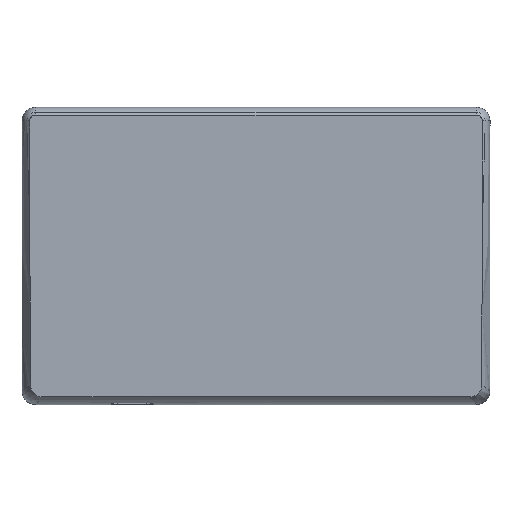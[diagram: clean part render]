
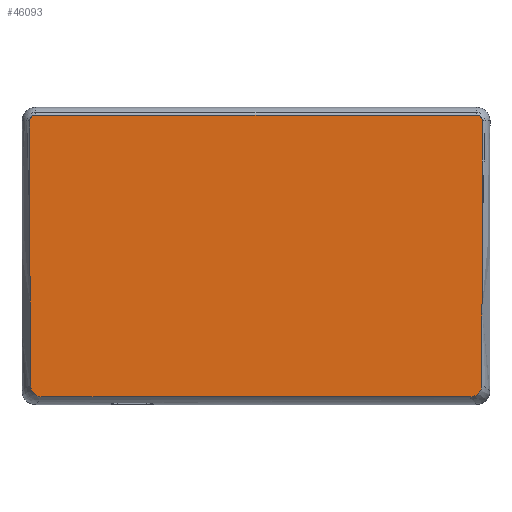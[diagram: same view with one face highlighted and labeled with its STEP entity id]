
A CAD part, front view. The second image highlights one B-rep face of the part: STEP entity #46093.
In plain terms, the highlighted planar face has unit normal (0, -1, 0).
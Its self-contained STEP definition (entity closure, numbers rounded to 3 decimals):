
#1370 = VERTEX_POINT ( 'NONE', #56546 ) ;
#3003 = CARTESIAN_POINT ( 'NONE',  ( 51.646, -1.5, -33.05 ) ) ;
#3081 = CARTESIAN_POINT ( 'NONE',  ( 51.646, -1.5, -31.65 ) ) ;
#3107 = CARTESIAN_POINT ( 'NONE',  ( -52.233, -1.5, -32.09 ) ) ;
#3658 = ORIENTED_EDGE ( 'NONE', *, *, #30579, .T. ) ;
#3877 = CARTESIAN_POINT ( 'NONE',  ( 51.873, -1.5, -32.484 ) ) ;
#3977 = CARTESIAN_POINT ( 'NONE',  ( 53.046, -1.5, 0. ) ) ;
#4042 = CARTESIAN_POINT ( 'NONE',  ( -50.666, -1.5, -32.983 ) ) ;
#4417 = B_SPLINE_CURVE_WITH_KNOTS ( 'NONE', 3,
 ( #6359, #29850, #30150, #15196, #52619, #52909 ),
 .UNSPECIFIED., .F., .F.,
 ( 4, 2, 4 ),
 ( 0., 0.019, 0.039 ),
 .UNSPECIFIED. ) ;
#4468 = VERTEX_POINT ( 'NONE', #50770 ) ;
#6359 = CARTESIAN_POINT ( 'NONE',  ( -53.054, -1.5, 8.36 ) ) ;
#7626 = CARTESIAN_POINT ( 'NONE',  ( -52.54, -1.5, -31.636 ) ) ;
#7670 = ORIENTED_EDGE ( 'NONE', *, *, #47982, .T. ) ;
#7972 = ORIENTED_EDGE ( 'NONE', *, *, #60193, .T. ) ;
#10188 = CARTESIAN_POINT ( 'NONE',  ( 53.046, -1.5, 6.084 ) ) ;
#10369 = CIRCLE ( 'NONE', #44613, 1.4 ) ;
#11305 = VERTEX_POINT ( 'NONE', #47342 ) ;
#11996 = CARTESIAN_POINT ( 'NONE',  ( -53.054, -1.5, 8.36 ) ) ;
#12367 = CARTESIAN_POINT ( 'NONE',  ( 49.973, -1.5, -33.05 ) ) ;
#12678 = CARTESIAN_POINT ( 'NONE',  ( 52.151, -1.5, -32.246 ) ) ;
#12863 = DIRECTION ( 'NONE',  ( 0., 0., -1. ) ) ;
#12984 = CARTESIAN_POINT ( 'NONE',  ( 50.341, -1.5, -33.05 ) ) ;
#13396 = VERTEX_POINT ( 'NONE', #17583 ) ;
#13561 = CARTESIAN_POINT ( 'NONE',  ( 51.399, -1.5, -32.763 ) ) ;
#13654 = CARTESIAN_POINT ( 'NONE',  ( 52.89, -1.5, -30.424 ) ) ;
#15196 = CARTESIAN_POINT ( 'NONE',  ( -52.888, -1.5, -17.48 ) ) ;
#15363 = ORIENTED_EDGE ( 'NONE', *, *, #37979, .T. ) ;
#15702 = LINE ( 'NONE', #20905, #38004 ) ;
#16343 = DIRECTION ( 'NONE',  ( 0., 0., -1. ) ) ;
#16550 = ORIENTED_EDGE ( 'NONE', *, *, #20430, .T. ) ;
#16782 = CARTESIAN_POINT ( 'NONE',  ( -52.814, -1.5, -30.766 ) ) ;
#17092 = CARTESIAN_POINT ( 'NONE',  ( -51.682, -1.5, -32.573 ) ) ;
#17283 = ORIENTED_EDGE ( 'NONE', *, *, #23930, .T. ) ;
#17383 = LINE ( 'NONE', #55144, #44948 ) ;
#17532 = CARTESIAN_POINT ( 'NONE',  ( 52.815, -1.5, -31.161 ) ) ;
#17583 = CARTESIAN_POINT ( 'NONE',  ( 51.646, -1.5, 33.05 ) ) ;
#17713 = DIRECTION ( 'NONE',  ( 0., -1., 0. ) ) ;
#17990 = CARTESIAN_POINT ( 'NONE',  ( 53.046, -1.5, -31.65 ) ) ;
#18622 = CARTESIAN_POINT ( 'NONE',  ( -51.362, -1.5, -32.753 ) ) ;
#20176 = B_SPLINE_CURVE_WITH_KNOTS ( 'NONE', 3,
 ( #21082, #40132, #16782, #53931, #30882, #7626, #26275, #3107, #40455, #59138, #17092, #18622, #23854, #22632, #4042, #41393, #56389, #60389 ),
 .UNSPECIFIED., .F., .F.,
 ( 4, 2, 2, 2, 2, 2, 2, 2, 4 ),
 ( 0., 0.001, 0.001, 0.002, 0.002, 0.003, 0.003, 0.004, 0.004 ),
 .UNSPECIFIED. ) ;
#20430 = EDGE_CURVE ( 'NONE', #51215, #13396, #58781, .T. ) ;
#20905 = CARTESIAN_POINT ( 'NONE',  ( -53.054, -1.5, -31.65 ) ) ;
#21082 = CARTESIAN_POINT ( 'NONE',  ( -52.832, -1.5, -30.399 ) ) ;
#21585 = AXIS2_PLACEMENT_3D ( 'NONE', #59142, #17713, #12863 ) ;
#21685 = DIRECTION ( 'NONE',  ( -1., 0., 0. ) ) ;
#21865 = CARTESIAN_POINT ( 'NONE',  ( -52.832, -1.5, -30.399 ) ) ;
#22396 = VERTEX_POINT ( 'NONE', #11996 ) ;
#22632 = CARTESIAN_POINT ( 'NONE',  ( -50.847, -1.5, -32.941 ) ) ;
#22745 = VECTOR ( 'NONE', #50139, 1000. ) ;
#23477 = CARTESIAN_POINT ( 'NONE',  ( 53.046, -1.5, 6.084 ) ) ;
#23854 = CARTESIAN_POINT ( 'NONE',  ( -51.195, -1.5, -32.826 ) ) ;
#23930 = EDGE_CURVE ( 'NONE', #25761, #1370, #20176, .T. ) ;
#24226 = CARTESIAN_POINT ( 'NONE',  ( 52.89, -1.5, -30.424 ) ) ;
#24851 = ORIENTED_EDGE ( 'NONE', *, *, #60609, .T. ) ;
#25538 = DIRECTION ( 'NONE',  ( 0., -1., 0. ) ) ;
#25669 = FACE_OUTER_BOUND ( 'NONE', #33913, .T. ) ;
#25761 = VERTEX_POINT ( 'NONE', #21865 ) ;
#26275 = CARTESIAN_POINT ( 'NONE',  ( -52.45, -1.5, -31.794 ) ) ;
#26728 = CARTESIAN_POINT ( 'NONE',  ( 51.23, -1.5, -32.834 ) ) ;
#26871 = VERTEX_POINT ( 'NONE', #24226 ) ;
#29850 = CARTESIAN_POINT ( 'NONE',  ( -53.054, -1.5, 1.9 ) ) ;
#30150 = CARTESIAN_POINT ( 'NONE',  ( -52.996, -1.5, -4.56 ) ) ;
#30480 = LINE ( 'NONE', #3003, #22745 ) ;
#30579 = EDGE_CURVE ( 'NONE', #1370, #33540, #30480, .T. ) ;
#30882 = CARTESIAN_POINT ( 'NONE',  ( -52.686, -1.5, -31.301 ) ) ;
#31985 = ORIENTED_EDGE ( 'NONE', *, *, #32816, .T. ) ;
#32215 = CARTESIAN_POINT ( 'NONE',  ( 52.591, -1.5, -31.661 ) ) ;
#32690 = DIRECTION ( 'NONE',  ( 0., 0., 1. ) ) ;
#32816 = EDGE_CURVE ( 'NONE', #26871, #39844, #35067, .T. ) ;
#32957 = CARTESIAN_POINT ( 'NONE',  ( 52.929, -1.5, -18.254 ) ) ;
#33284 = CARTESIAN_POINT ( 'NONE',  ( 53.046, -1.5, 31.65 ) ) ;
#33540 = VERTEX_POINT ( 'NONE', #43444 ) ;
#33913 = EDGE_LOOP ( 'NONE', ( #7670, #17283, #3658, #15363, #31985, #24851, #16550, #55472, #7972, #49779 ) ) ;
#33934 = VECTOR ( 'NONE', #32690, 1000. ) ;
#34765 = EDGE_CURVE ( 'NONE', #13396, #11305, #17383, .T. ) ;
#35067 = B_SPLINE_CURVE_WITH_KNOTS ( 'NONE', 3,
 ( #13654, #46501, #32957, #50472, #3977, #23477 ),
 .UNSPECIFIED., .F., .F.,
 ( 4, 2, 4 ),
 ( 0.002, 0.02, 0.038 ),
 .UNSPECIFIED. ) ;
#35495 = PLANE ( 'NONE',  #38131 ) ;
#35645 = CARTESIAN_POINT ( 'NONE',  ( 51.719, -1.5, -32.589 ) ) ;
#37979 = EDGE_CURVE ( 'NONE', #33540, #26871, #41894, .T. ) ;
#38004 = VECTOR ( 'NONE', #58359, 1000. ) ;
#38131 = AXIS2_PLACEMENT_3D ( 'NONE', #3081, #48679, #49570 ) ;
#39844 = VERTEX_POINT ( 'NONE', #10188 ) ;
#40132 = CARTESIAN_POINT ( 'NONE',  ( -52.832, -1.5, -30.584 ) ) ;
#40455 = CARTESIAN_POINT ( 'NONE',  ( -52.108, -1.5, -32.226 ) ) ;
#40582 = CARTESIAN_POINT ( 'NONE',  ( 52.496, -1.5, -31.822 ) ) ;
#41370 = LINE ( 'NONE', #17990, #33934 ) ;
#41393 = CARTESIAN_POINT ( 'NONE',  ( -50.305, -1.5, -33.037 ) ) ;
#41894 = B_SPLINE_CURVE_WITH_KNOTS ( 'NONE', 3,
 ( #12367, #12984, #59282, #26728, #13561, #35645, #3877, #12678, #45775, #40582, #32215, #17532, #46088, #45473 ),
 .UNSPECIFIED., .F., .F.,
 ( 4, 2, 2, 2, 2, 2, 4 ),
 ( 0., 0.001, 0.002, 0.002, 0.003, 0.003, 0.004 ),
 .UNSPECIFIED. ) ;
#43444 = CARTESIAN_POINT ( 'NONE',  ( 49.973, -1.5, -33.05 ) ) ;
#43451 = EDGE_CURVE ( 'NONE', #4468, #22396, #15702, .T. ) ;
#44613 = AXIS2_PLACEMENT_3D ( 'NONE', #53460, #25538, #16343 ) ;
#44948 = VECTOR ( 'NONE', #21685, 1000. ) ;
#45473 = CARTESIAN_POINT ( 'NONE',  ( 52.89, -1.5, -30.424 ) ) ;
#45775 = CARTESIAN_POINT ( 'NONE',  ( 52.276, -1.5, -32.114 ) ) ;
#46088 = CARTESIAN_POINT ( 'NONE',  ( 52.889, -1.5, -30.793 ) ) ;
#46093 = ADVANCED_FACE ( 'NONE', ( #25669 ), #35495, .T. ) ;
#46501 = CARTESIAN_POINT ( 'NONE',  ( 52.894, -1.5, -24.339 ) ) ;
#47342 = CARTESIAN_POINT ( 'NONE',  ( -51.654, -1.5, 33.05 ) ) ;
#47982 = EDGE_CURVE ( 'NONE', #22396, #25761, #4417, .T. ) ;
#48679 = DIRECTION ( 'NONE',  ( 0., -1., 0. ) ) ;
#49570 = DIRECTION ( 'NONE',  ( 0., 0., -1. ) ) ;
#49779 = ORIENTED_EDGE ( 'NONE', *, *, #43451, .T. ) ;
#50139 = DIRECTION ( 'NONE',  ( 1., 0., 0. ) ) ;
#50472 = CARTESIAN_POINT ( 'NONE',  ( 53.006, -1.5, -6.085 ) ) ;
#50770 = CARTESIAN_POINT ( 'NONE',  ( -53.054, -1.5, 31.65 ) ) ;
#51215 = VERTEX_POINT ( 'NONE', #33284 ) ;
#52619 = CARTESIAN_POINT ( 'NONE',  ( -52.838, -1.5, -23.939 ) ) ;
#52909 = CARTESIAN_POINT ( 'NONE',  ( -52.832, -1.5, -30.399 ) ) ;
#53460 = CARTESIAN_POINT ( 'NONE',  ( -51.654, -1.5, 31.65 ) ) ;
#53931 = CARTESIAN_POINT ( 'NONE',  ( -52.742, -1.5, -31.123 ) ) ;
#55144 = CARTESIAN_POINT ( 'NONE',  ( 51.646, -1.5, 33.05 ) ) ;
#55472 = ORIENTED_EDGE ( 'NONE', *, *, #34765, .T. ) ;
#56389 = CARTESIAN_POINT ( 'NONE',  ( -50.122, -1.5, -33.05 ) ) ;
#56546 = CARTESIAN_POINT ( 'NONE',  ( -49.938, -1.5, -33.05 ) ) ;
#58359 = DIRECTION ( 'NONE',  ( 0., 0., -1. ) ) ;
#58781 = CIRCLE ( 'NONE', #21585, 1.4 ) ;
#59138 = CARTESIAN_POINT ( 'NONE',  ( -51.834, -1.5, -32.467 ) ) ;
#59142 = CARTESIAN_POINT ( 'NONE',  ( 51.646, -1.5, 31.65 ) ) ;
#59282 = CARTESIAN_POINT ( 'NONE',  ( 50.703, -1.5, -33.003 ) ) ;
#60193 = EDGE_CURVE ( 'NONE', #11305, #4468, #10369, .T. ) ;
#60389 = CARTESIAN_POINT ( 'NONE',  ( -49.938, -1.5, -33.05 ) ) ;
#60609 = EDGE_CURVE ( 'NONE', #39844, #51215, #41370, .T. ) ;
